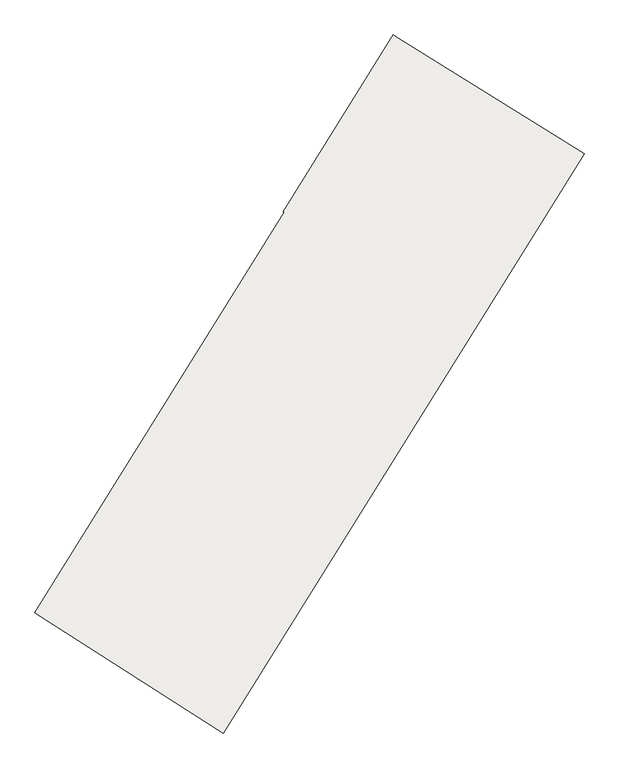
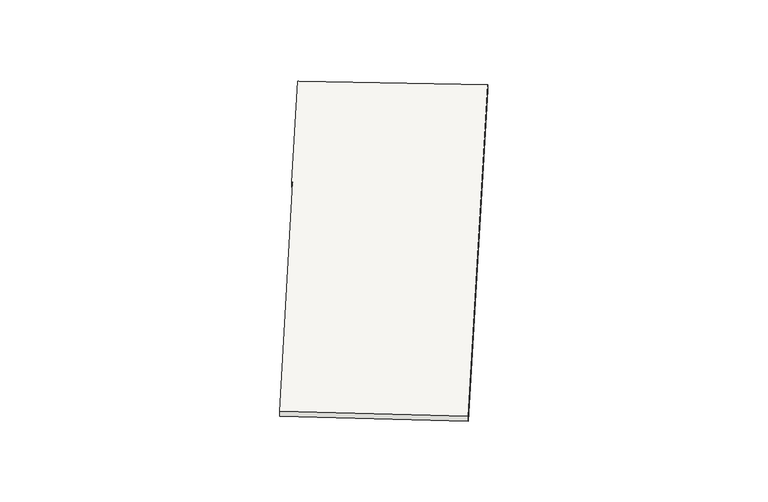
"""IFC4 building model written with IfcOpenShell, lengths in millimetres: slab geometry, Non-Monolitic_Landing."""

from ifc_helpers import new_model, si_unit, frame, origin, place, context, project, spatial, polyline, outline, extrude, source, transform, mapped, element, save


def slab_8b328c32(model_context):
    return source(origin(), model_context, "Body", "SweptSolid", [
        extrude(outline(polyline([(15708.1099258, 7505.0853618), (17382.9059975, 10193.4681714), (17374.4182999, 10198.7557973), (18113.4856587, 11385.1067902), (18121.9733564, 11379.8191642), (19395.1280071, 10586.6752711), (16971.9561334, 6696.9995549), (15708.1099258, 7505.0853618)])), frame((0.0, 0.0, 13316.6666667), z_axis=(0.0, 0.0, 1.0), x_axis=(1.0, 0.0, 0.0)), (0.0, 0.0, 1.0), 50.0),
    ])


if __name__ == "__main__":
    model = new_model("IFC4")
    model_context = context("Model", 3, world=origin())
    ifc_project = project(units=[si_unit("LENGTHUNIT", "METRE", prefix="MILLI")], contexts=[model_context])
    site = spatial("IfcSite", under=ifc_project)
    building = spatial("IfcBuilding", under=site)
    placement = place(None, origin())
    slab_shape = slab_8b328c32(model_context)
    element("IfcSlab", 1, ObjectType="Non-Monolitic_Landing", at=placement, inside=building, context=model_context, shape_type="MappedRepresentation", body=[
        mapped(slab_shape, transform((0.0, 0.0, 0.0), x_axis=(1.0, 0.0, 0.0), y_axis=(0.0, 1.0, 0.0), z_axis=(0.0, 0.0, 1.0))),
    ])
    save(model, "model.ifc")
